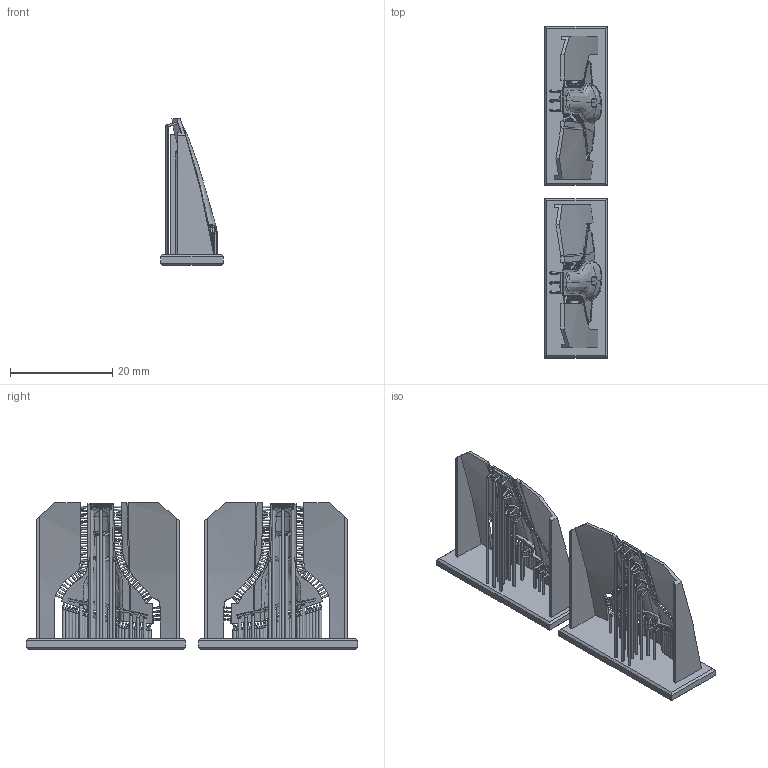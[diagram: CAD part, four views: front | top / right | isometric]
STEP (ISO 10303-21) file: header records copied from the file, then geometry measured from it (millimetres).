
FILE_DESCRIPTION(/* description */ (''),/* implementation_level */ '2;1');
FILE_NAME(/* name */ 'F6F-XL~4',/* time_stamp */ '2021-03-19T12:15:48+01:00',/* author */ (''),/* organization */ (''),/* preprocessor_version */ 'ST-DEVELOPER v16.5',/* originating_system */ '',/* authorisation */ '');
FILE_SCHEMA (('CONFIG_CONTROL_DESIGN'));
Length unit declared in the file: millimetre
Products named in the file (1): Document
Bounding box: 12.15 x 64.92 x 28.6 mm (x, y, z)
Volume: 2503.9 mm3; surface area: 6607.9 mm2
Topology: 2 solids, 2 shells, 1212 faces, 3662 edges, 2338 vertices
Faces by surface type: bspline 782, cylinder 320, plane 110
Entity records: 86422 total; most frequent: CARTESIAN_POINT 65660, ORIENTED_EDGE 7188, EDGE_CURVE 3594, VERTEX_POINT 2336, B_SPLINE_CURVE_WITH_KNOTS 1706, EDGE_LOOP 1616, ADVANCED_FACE 1212, FACE_OUTER_BOUND 1212
